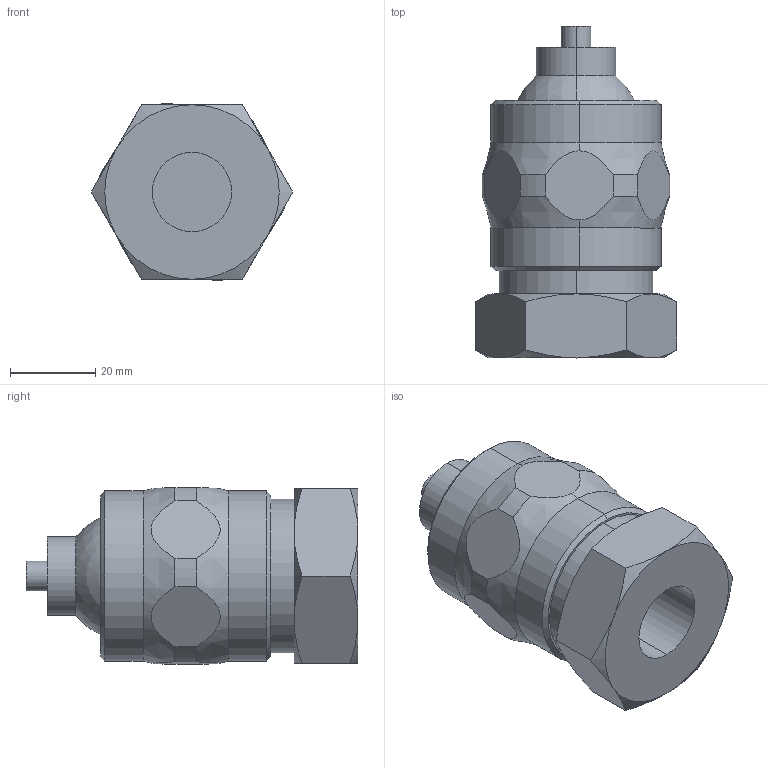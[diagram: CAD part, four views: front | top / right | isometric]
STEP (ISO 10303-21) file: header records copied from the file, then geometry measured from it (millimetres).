
FILE_DESCRIPTION (( 'STEP AP203' ), '1' );
FILE_NAME ('SILVENT_707_CA.STEP', '2019-11-11T12:32:52', ( '' ), ( '' ), 'SwSTEP 2.0', 'SolidWorks 2016', '' );
FILE_SCHEMA (( 'CONFIG_CONTROL_DESIGN' ));
Length unit declared in the file: millimetre
Products named in the file (9): 29002_1; 700A_kula_propp; 29002_3; SILVENT_707_CA; 707CA_proppmini
Assembly tree (4 placements, depth 2):
  29002_1
  700A_kula_propp
  29002_3
  SILVENT_707_CA
    29002_1
    29002_3
    700A_kula_propp
    707CA_proppmini
  707CA_proppmini
Bounding box: 47.34 x 78 x 41.56 mm (x, y, z)
Volume: 66484.3 mm3; surface area: 24876.3 mm2
Topology: 4 solids, 4 shells, 76 faces, 171 edges, 105 vertices
Faces by surface type: cylinder 28, plane 24, cone 22, sphere 2
Entity records: 3365 total; most frequent: CARTESIAN_POINT 888, DIRECTION 370, ORIENTED_EDGE 332, EDGE_CURVE 166, AXIS2_PLACEMENT_3D 160, VERTEX_POINT 102, EDGE_LOOP 84, FACE_OUTER_BOUND 76
